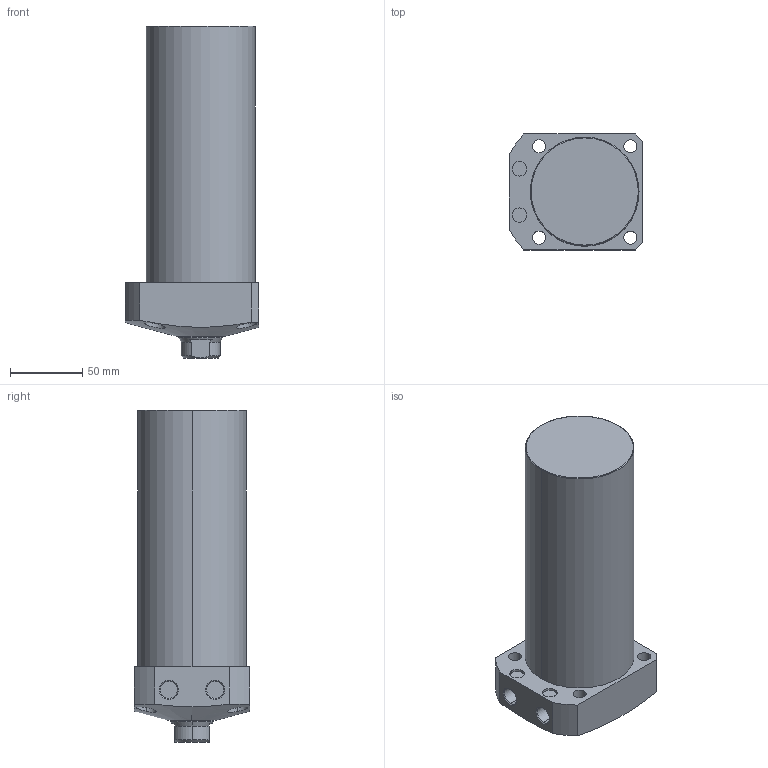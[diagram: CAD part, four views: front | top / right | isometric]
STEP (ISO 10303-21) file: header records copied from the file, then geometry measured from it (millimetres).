
FILE_DESCRIPTION (( 'STEP AP203' ), '1' );
FILE_NAME ('CLL-075CA-140.STEP', '2019-12-23T08:53:27', ( '' ), ( '' ), 'SwSTEP 2.0', 'SolidWorks 2015', '' );
FILE_SCHEMA (( 'CONFIG_CONTROL_DESIGN' ));
Length unit declared in the file: millimetre
Products named in the file (1): CLL-075CA-140
Bounding box: 92 x 80 x 229 mm (x, y, z)
Volume: 1001020 mm3; surface area: 74039 mm2
Topology: 1 solids, 1 shells, 74 faces, 171 edges, 108 vertices
Faces by surface type: cylinder 35, plane 22, cone 15, torus 2
Entity records: 2610 total; most frequent: CARTESIAN_POINT 815, DIRECTION 376, ORIENTED_EDGE 338, EDGE_CURVE 169, AXIS2_PLACEMENT_3D 156, VERTEX_POINT 108, EDGE_LOOP 93, CIRCLE 81
